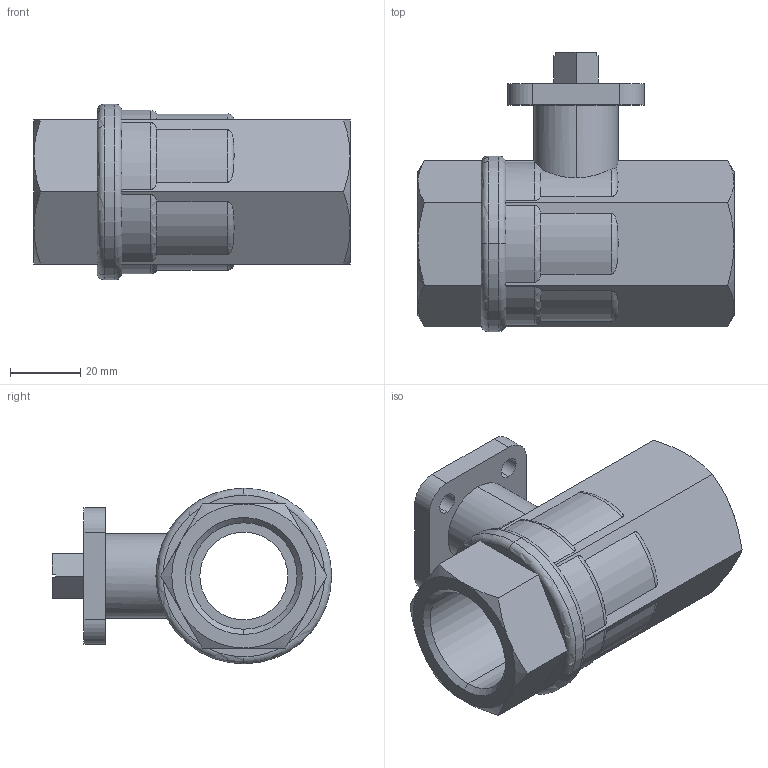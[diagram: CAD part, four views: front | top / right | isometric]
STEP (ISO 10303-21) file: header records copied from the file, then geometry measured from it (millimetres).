
FILE_DESCRIPTION (( 'STEP AP214' ), '1' );
FILE_NAME ('Ballvalve A25-DN25 G1.step', '2010-09-23T08:32:27', ( '' ), ( '' ), 'SwSTEP 2.0', 'SolidWorks 2010', '' );
FILE_SCHEMA (( 'AUTOMOTIVE_DESIGN' ));
Length unit declared in the file: millimetre
Products named in the file (1): Ballvalve A25-DN25 G1
Bounding box: 90 x 79.5 x 50 mm (x, y, z)
Volume: 98098 mm3; surface area: 28319.2 mm2
Topology: 1 solids, 1 shells, 112 faces, 291 edges, 186 vertices
Faces by surface type: plane 40, cylinder 38, torus 18, cone 16
Entity records: 4110 total; most frequent: CARTESIAN_POINT 1292, ORIENTED_EDGE 582, DIRECTION 543, EDGE_CURVE 291, AXIS2_PLACEMENT_3D 218, VERTEX_POINT 186, EDGE_LOOP 127, ADVANCED_FACE 112
